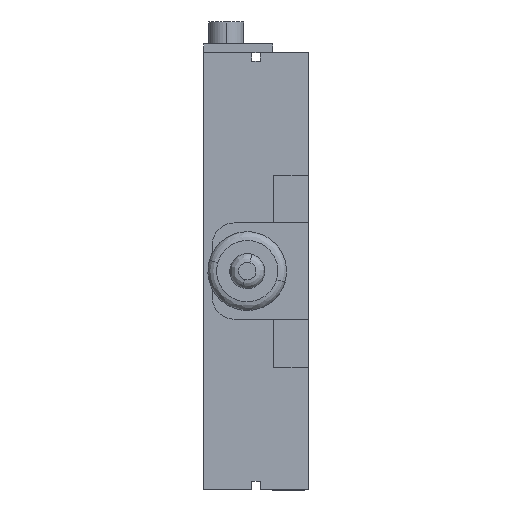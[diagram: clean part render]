
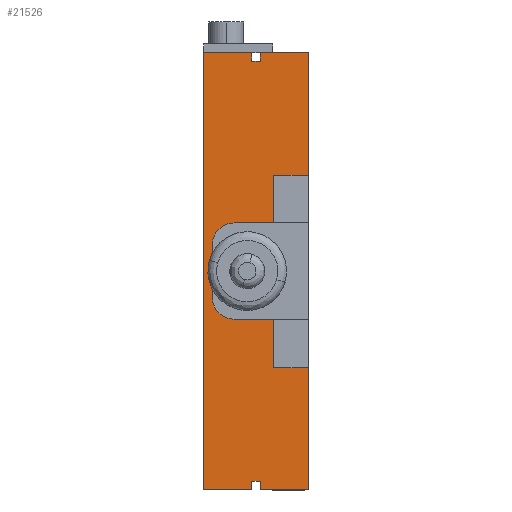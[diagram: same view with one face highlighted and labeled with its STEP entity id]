
A CAD part, left-side view. The second image highlights one B-rep face of the part: STEP entity #21526.
In plain terms, the highlighted planar face has unit normal (-1, 0, 0).
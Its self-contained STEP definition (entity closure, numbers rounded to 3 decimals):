
#138 = CARTESIAN_POINT ( 'NONE',  ( -50., 8., -22. ) ) ;
#175 = EDGE_CURVE ( 'NONE', #7320, #19197, #8562, .T. ) ;
#581 = CARTESIAN_POINT ( 'NONE',  ( -50., 11., 48. ) ) ;
#743 = CARTESIAN_POINT ( 'NONE',  ( -50., 24., -50. ) ) ;
#802 = EDGE_CURVE ( 'NONE', #1129, #16470, #5349, .T. ) ;
#1129 = VERTEX_POINT ( 'NONE', #581 ) ;
#1140 = VERTEX_POINT ( 'NONE', #19192 ) ;
#1180 = EDGE_CURVE ( 'NONE', #7320, #19236, #5084, .T. ) ;
#1596 = CARTESIAN_POINT ( 'NONE',  ( -50., 24., 48. ) ) ;
#2109 = ORIENTED_EDGE ( 'NONE', *, *, #10829, .F. ) ;
#2280 = ORIENTED_EDGE ( 'NONE', *, *, #7097, .F. ) ;
#2412 = CARTESIAN_POINT ( 'NONE',  ( -50., 11., 50. ) ) ;
#2467 = VERTEX_POINT ( 'NONE', #23381 ) ;
#2738 = CARTESIAN_POINT ( 'NONE',  ( -50., 0., 22. ) ) ;
#2801 = DIRECTION ( 'NONE',  ( 0., 0., 1. ) ) ;
#2915 = VECTOR ( 'NONE', #4492, 1000. ) ;
#2988 = EDGE_CURVE ( 'NONE', #19236, #5096, #10772, .T. ) ;
#3121 = EDGE_CURVE ( 'NONE', #2467, #22840, #7598, .T. ) ;
#3131 = ORIENTED_EDGE ( 'NONE', *, *, #175, .T. ) ;
#3188 = VERTEX_POINT ( 'NONE', #743 ) ;
#3205 = AXIS2_PLACEMENT_3D ( 'NONE', #22734, #9942, #22979 ) ;
#3364 = CARTESIAN_POINT ( 'NONE',  ( -50., 24., 22. ) ) ;
#3376 = CARTESIAN_POINT ( 'NONE',  ( -50., 13., -50. ) ) ;
#3403 = CARTESIAN_POINT ( 'NONE',  ( -50., 11., -50. ) ) ;
#3555 = DIRECTION ( 'NONE',  ( 0., 0., 1. ) ) ;
#3952 = ORIENTED_EDGE ( 'NONE', *, *, #802, .F. ) ;
#4135 = VECTOR ( 'NONE', #14389, 1000. ) ;
#4205 = VECTOR ( 'NONE', #11499, 1000. ) ;
#4420 = EDGE_LOOP ( 'NONE', ( #9447, #7443, #3952, #20834, #20881, #23518, #21497, #2109, #8424, #15101, #13929, #10797, #3131, #2280, #22347, #12360 ) ) ;
#4492 = DIRECTION ( 'NONE',  ( 0., -1., 0. ) ) ;
#4628 = EDGE_CURVE ( 'NONE', #3188, #9391, #12503, .T. ) ;
#4780 = VECTOR ( 'NONE', #3555, 1000. ) ;
#4996 = VECTOR ( 'NONE', #16468, 1000. ) ;
#5084 = LINE ( 'NONE', #21067, #14354 ) ;
#5096 = VERTEX_POINT ( 'NONE', #23439 ) ;
#5249 = CARTESIAN_POINT ( 'NONE',  ( -50., 24., -50. ) ) ;
#5292 = VECTOR ( 'NONE', #5546, 1000. ) ;
#5349 = LINE ( 'NONE', #14539, #4780 ) ;
#5546 = DIRECTION ( 'NONE',  ( 0., 0., -1. ) ) ;
#5556 = VECTOR ( 'NONE', #8567, 1000. ) ;
#5605 = DIRECTION ( 'NONE',  ( 0., 0., 1. ) ) ;
#6050 = VECTOR ( 'NONE', #16520, 1000. ) ;
#6215 = EDGE_CURVE ( 'NONE', #9391, #1140, #19469, .T. ) ;
#7075 = CARTESIAN_POINT ( 'NONE',  ( -50., 13., -48. ) ) ;
#7097 = EDGE_CURVE ( 'NONE', #22840, #19197, #20877, .T. ) ;
#7256 = CARTESIAN_POINT ( 'NONE',  ( -50., 13., -50. ) ) ;
#7320 = VERTEX_POINT ( 'NONE', #13412 ) ;
#7443 = ORIENTED_EDGE ( 'NONE', *, *, #9821, .F. ) ;
#7581 = VECTOR ( 'NONE', #2801, 1000. ) ;
#7598 = LINE ( 'NONE', #18780, #5292 ) ;
#7697 = VERTEX_POINT ( 'NONE', #8204 ) ;
#7755 = VECTOR ( 'NONE', #10801, 1000. ) ;
#8039 = CARTESIAN_POINT ( 'NONE',  ( -50., 11., -50. ) ) ;
#8204 = CARTESIAN_POINT ( 'NONE',  ( -50., 13., -50. ) ) ;
#8424 = ORIENTED_EDGE ( 'NONE', *, *, #10862, .F. ) ;
#8562 = LINE ( 'NONE', #22429, #10587 ) ;
#8567 = DIRECTION ( 'NONE',  ( 0., 1., 0. ) ) ;
#9391 = VERTEX_POINT ( 'NONE', #20457 ) ;
#9447 = ORIENTED_EDGE ( 'NONE', *, *, #14453, .T. ) ;
#9639 = CARTESIAN_POINT ( 'NONE',  ( -50., 0., 50. ) ) ;
#9821 = EDGE_CURVE ( 'NONE', #16470, #23018, #11843, .T. ) ;
#9942 = DIRECTION ( 'NONE',  ( 1., 0., 0. ) ) ;
#10587 = VECTOR ( 'NONE', #5605, 1000. ) ;
#10674 = FACE_OUTER_BOUND ( 'NONE', #4420, .T. ) ;
#10772 = LINE ( 'NONE', #3403, #4135 ) ;
#10797 = ORIENTED_EDGE ( 'NONE', *, *, #1180, .F. ) ;
#10801 = DIRECTION ( 'NONE',  ( 0., 1., 0. ) ) ;
#10829 = EDGE_CURVE ( 'NONE', #7697, #3188, #15907, .T. ) ;
#10862 = EDGE_CURVE ( 'NONE', #14350, #7697, #21436, .T. ) ;
#11499 = DIRECTION ( 'NONE',  ( 0., 0., 1. ) ) ;
#11569 = CARTESIAN_POINT ( 'NONE',  ( -50., 13., 48. ) ) ;
#11843 = LINE ( 'NONE', #17406, #2915 ) ;
#11891 = CARTESIAN_POINT ( 'NONE',  ( -50., 0., 50. ) ) ;
#11913 = LINE ( 'NONE', #3364, #5556 ) ;
#12222 = LINE ( 'NONE', #1596, #4996 ) ;
#12292 = LINE ( 'NONE', #16230, #23961 ) ;
#12360 = ORIENTED_EDGE ( 'NONE', *, *, #18450, .F. ) ;
#12503 = LINE ( 'NONE', #15667, #7581 ) ;
#12588 = LINE ( 'NONE', #9639, #4205 ) ;
#12924 = DIRECTION ( 'NONE',  ( 0., -1., 0. ) ) ;
#13412 = CARTESIAN_POINT ( 'NONE',  ( -50., 0., -50. ) ) ;
#13929 = ORIENTED_EDGE ( 'NONE', *, *, #2988, .F. ) ;
#14185 = VECTOR ( 'NONE', #15080, 1000. ) ;
#14350 = VERTEX_POINT ( 'NONE', #7075 ) ;
#14354 = VECTOR ( 'NONE', #15615, 1000. ) ;
#14389 = DIRECTION ( 'NONE',  ( 0., 0., 1. ) ) ;
#14453 = EDGE_CURVE ( 'NONE', #23605, #23018, #12588, .T. ) ;
#14539 = CARTESIAN_POINT ( 'NONE',  ( -50., 11., -50. ) ) ;
#14716 = EDGE_CURVE ( 'NONE', #5096, #14350, #12292, .T. ) ;
#15000 = LINE ( 'NONE', #3376, #21706 ) ;
#15080 = DIRECTION ( 'NONE',  ( 0., -1., 0. ) ) ;
#15101 = ORIENTED_EDGE ( 'NONE', *, *, #14716, .F. ) ;
#15615 = DIRECTION ( 'NONE',  ( 0., 1., 0. ) ) ;
#15667 = CARTESIAN_POINT ( 'NONE',  ( -50., 24., -50. ) ) ;
#15907 = LINE ( 'NONE', #5249, #7755 ) ;
#16230 = CARTESIAN_POINT ( 'NONE',  ( -50., 24., -48. ) ) ;
#16468 = DIRECTION ( 'NONE',  ( 0., -1., 0. ) ) ;
#16470 = VERTEX_POINT ( 'NONE', #2412 ) ;
#16520 = DIRECTION ( 'NONE',  ( 0., 0., -1. ) ) ;
#16768 = EDGE_CURVE ( 'NONE', #19669, #1129, #12222, .T. ) ;
#17239 = CARTESIAN_POINT ( 'NONE',  ( -50., 0., -22. ) ) ;
#17406 = CARTESIAN_POINT ( 'NONE',  ( -50., 24., 50. ) ) ;
#17451 = PLANE ( 'NONE',  #3205 ) ;
#18306 = VECTOR ( 'NONE', #12924, 1000. ) ;
#18416 = CARTESIAN_POINT ( 'NONE',  ( -50., 24., 50. ) ) ;
#18450 = EDGE_CURVE ( 'NONE', #23605, #2467, #11913, .T. ) ;
#18780 = CARTESIAN_POINT ( 'NONE',  ( -50., 8., -50. ) ) ;
#19192 = CARTESIAN_POINT ( 'NONE',  ( -50., 13., 50. ) ) ;
#19197 = VERTEX_POINT ( 'NONE', #17239 ) ;
#19236 = VERTEX_POINT ( 'NONE', #8039 ) ;
#19469 = LINE ( 'NONE', #18416, #18306 ) ;
#19669 = VERTEX_POINT ( 'NONE', #11569 ) ;
#20129 = DIRECTION ( 'NONE',  ( 0., 1., 0. ) ) ;
#20457 = CARTESIAN_POINT ( 'NONE',  ( -50., 24., 50. ) ) ;
#20834 = ORIENTED_EDGE ( 'NONE', *, *, #16768, .F. ) ;
#20849 = CARTESIAN_POINT ( 'NONE',  ( -50., 24., -22. ) ) ;
#20877 = LINE ( 'NONE', #20849, #14185 ) ;
#20881 = ORIENTED_EDGE ( 'NONE', *, *, #22713, .F. ) ;
#21067 = CARTESIAN_POINT ( 'NONE',  ( -50., 24., -50. ) ) ;
#21436 = LINE ( 'NONE', #7256, #6050 ) ;
#21497 = ORIENTED_EDGE ( 'NONE', *, *, #4628, .F. ) ;
#21526 = ADVANCED_FACE ( 'NONE', ( #10674 ), #17451, .F. ) ;
#21706 = VECTOR ( 'NONE', #23964, 1000. ) ;
#22347 = ORIENTED_EDGE ( 'NONE', *, *, #3121, .F. ) ;
#22429 = CARTESIAN_POINT ( 'NONE',  ( -50., 0., 50. ) ) ;
#22713 = EDGE_CURVE ( 'NONE', #1140, #19669, #15000, .T. ) ;
#22734 = CARTESIAN_POINT ( 'NONE',  ( -50., 24., -50. ) ) ;
#22840 = VERTEX_POINT ( 'NONE', #138 ) ;
#22979 = DIRECTION ( 'NONE',  ( 0., 0., -1. ) ) ;
#23018 = VERTEX_POINT ( 'NONE', #11891 ) ;
#23381 = CARTESIAN_POINT ( 'NONE',  ( -50., 8., 22. ) ) ;
#23439 = CARTESIAN_POINT ( 'NONE',  ( -50., 11., -48. ) ) ;
#23518 = ORIENTED_EDGE ( 'NONE', *, *, #6215, .F. ) ;
#23605 = VERTEX_POINT ( 'NONE', #2738 ) ;
#23961 = VECTOR ( 'NONE', #20129, 1000. ) ;
#23964 = DIRECTION ( 'NONE',  ( 0., 0., -1. ) ) ;
